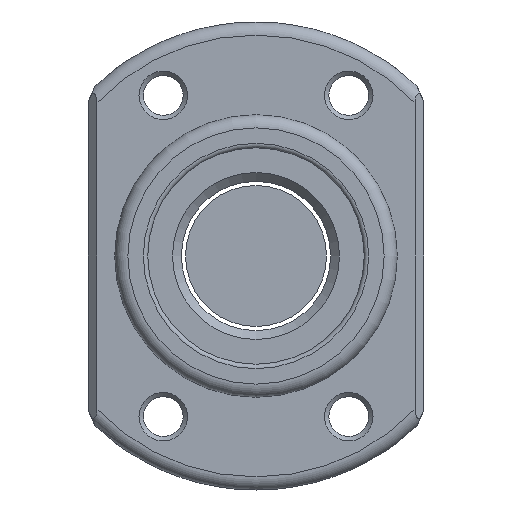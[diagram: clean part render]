
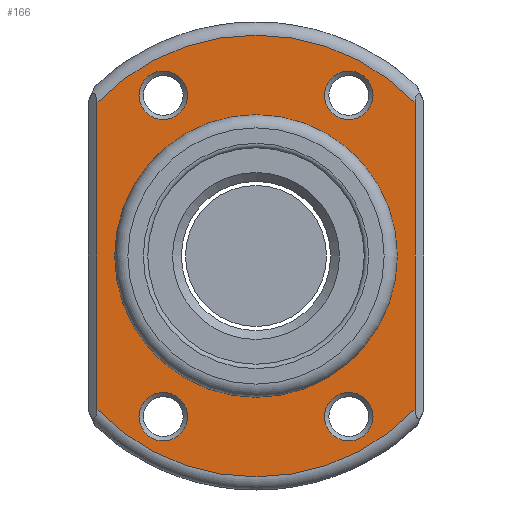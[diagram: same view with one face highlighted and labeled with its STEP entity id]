
A CAD part, front view. The second image highlights one B-rep face of the part: STEP entity #166.
In plain terms, the highlighted planar face has unit normal (0, -1, 0).
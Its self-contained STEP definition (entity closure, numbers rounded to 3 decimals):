
#59=LINE('',#1055,#83);
#60=LINE('',#1059,#84);
#83=VECTOR('',#851,1.);
#84=VECTOR('',#854,1.);
#128=PLANE('',#746);
#166=ADVANCED_FACE('',(#224,#225,#226,#227,#228,#229),#128,.T.);
#224=FACE_BOUND('',#295,.T.);
#225=FACE_BOUND('',#296,.T.);
#226=FACE_BOUND('',#297,.T.);
#227=FACE_BOUND('',#298,.T.);
#228=FACE_BOUND('',#299,.T.);
#229=FACE_BOUND('',#300,.T.);
#295=EDGE_LOOP('',(#384));
#296=EDGE_LOOP('',(#385));
#297=EDGE_LOOP('',(#386));
#298=EDGE_LOOP('',(#387));
#299=EDGE_LOOP('',(#388,#389,#390,#391));
#300=EDGE_LOOP('',(#392));
#384=ORIENTED_EDGE('',*,*,#612,.T.);
#385=ORIENTED_EDGE('',*,*,#613,.T.);
#386=ORIENTED_EDGE('',*,*,#614,.T.);
#387=ORIENTED_EDGE('',*,*,#615,.T.);
#388=ORIENTED_EDGE('',*,*,#616,.T.);
#389=ORIENTED_EDGE('',*,*,#617,.T.);
#390=ORIENTED_EDGE('',*,*,#618,.T.);
#391=ORIENTED_EDGE('',*,*,#619,.T.);
#392=ORIENTED_EDGE('',*,*,#620,.T.);
#546=VERTEX_POINT('',#1045);
#547=VERTEX_POINT('',#1047);
#548=VERTEX_POINT('',#1049);
#549=VERTEX_POINT('',#1051);
#550=VERTEX_POINT('',#1053);
#551=VERTEX_POINT('',#1054);
#552=VERTEX_POINT('',#1056);
#553=VERTEX_POINT('',#1058);
#554=VERTEX_POINT('',#1061);
#612=EDGE_CURVE('',#546,#546,#692,.T.);
#613=EDGE_CURVE('',#547,#547,#693,.T.);
#614=EDGE_CURVE('',#548,#548,#694,.T.);
#615=EDGE_CURVE('',#549,#549,#695,.T.);
#616=EDGE_CURVE('',#550,#551,#696,.T.);
#617=EDGE_CURVE('',#551,#552,#59,.T.);
#618=EDGE_CURVE('',#552,#553,#697,.T.);
#619=EDGE_CURVE('',#553,#550,#60,.T.);
#620=EDGE_CURVE('',#554,#554,#698,.T.);
#692=CIRCLE('',#739,2.75);
#693=CIRCLE('',#740,2.75);
#694=CIRCLE('',#741,2.75);
#695=CIRCLE('',#742,2.75);
#696=CIRCLE('',#743,25.);
#697=CIRCLE('',#744,25.);
#698=CIRCLE('',#745,16.);
#739=AXIS2_PLACEMENT_3D('',#1044,#841,#842);
#740=AXIS2_PLACEMENT_3D('',#1046,#843,#844);
#741=AXIS2_PLACEMENT_3D('',#1048,#845,#846);
#742=AXIS2_PLACEMENT_3D('',#1050,#847,#848);
#743=AXIS2_PLACEMENT_3D('',#1052,#849,#850);
#744=AXIS2_PLACEMENT_3D('',#1057,#852,#853);
#745=AXIS2_PLACEMENT_3D('',#1060,#855,#856);
#746=AXIS2_PLACEMENT_3D('',#1062,#857,#858);
#841=DIRECTION('',(0.,1.,0.));
#842=DIRECTION('',(0.,0.,-1.));
#843=DIRECTION('',(0.,1.,0.));
#844=DIRECTION('',(0.,0.,-1.));
#845=DIRECTION('',(0.,1.,0.));
#846=DIRECTION('',(0.,0.,-1.));
#847=DIRECTION('',(0.,1.,0.));
#848=DIRECTION('',(0.,0.,-1.));
#849=DIRECTION('',(0.,-1.,0.));
#850=DIRECTION('',(0.,0.,-1.));
#851=DIRECTION('',(0.,0.,1.));
#852=DIRECTION('',(0.,-1.,0.));
#853=DIRECTION('',(0.,0.,-1.));
#854=DIRECTION('',(0.,0.,-1.));
#855=DIRECTION('',(0.,1.,0.));
#856=DIRECTION('',(0.,0.,-1.));
#857=DIRECTION('',(0.,-1.,0.));
#858=DIRECTION('',(0.,0.,-1.));
#1044=CARTESIAN_POINT('',(10.5,0.,18.187));
#1045=CARTESIAN_POINT('',(10.5,0.,15.437));
#1046=CARTESIAN_POINT('',(-10.5,0.,-18.187));
#1047=CARTESIAN_POINT('',(-10.5,0.,-20.937));
#1048=CARTESIAN_POINT('',(-10.5,0.,18.187));
#1049=CARTESIAN_POINT('',(-10.5,0.,15.437));
#1050=CARTESIAN_POINT('',(10.5,0.,-18.187));
#1051=CARTESIAN_POINT('',(10.5,0.,-20.937));
#1052=CARTESIAN_POINT('',(0.,0.,0.));
#1053=CARTESIAN_POINT('',(-18.,0.,-17.349));
#1054=CARTESIAN_POINT('',(18.,0.,-17.349));
#1055=CARTESIAN_POINT('',(18.,0.,16.248));
#1056=CARTESIAN_POINT('',(18.,0.,17.349));
#1057=CARTESIAN_POINT('',(0.,0.,0.));
#1058=CARTESIAN_POINT('',(-18.,0.,17.349));
#1059=CARTESIAN_POINT('',(-18.,0.,0.));
#1060=CARTESIAN_POINT('',(0.,0.,0.));
#1061=CARTESIAN_POINT('',(0.,0.,-16.));
#1062=CARTESIAN_POINT('',(0.,0.,0.));
